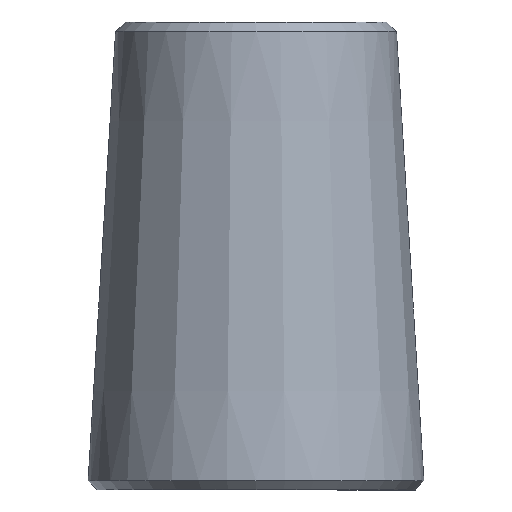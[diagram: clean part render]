
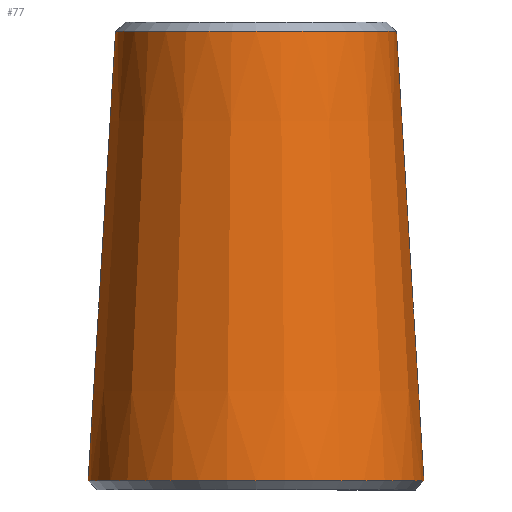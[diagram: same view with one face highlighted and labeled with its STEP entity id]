
A CAD part, left-side view. The second image highlights one B-rep face of the part: STEP entity #77.
In plain terms, the highlighted conical face has half-angle 3.5 degrees and reference radius 8.236 mm.
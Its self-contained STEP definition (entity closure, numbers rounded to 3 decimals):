
#20=FACE_BOUND('',#34,.T.);
#25=FACE_OUTER_BOUND('',#33,.T.);
#33=EDGE_LOOP('',(#63));
#34=EDGE_LOOP('',(#64));
#44=CIRCLE('',#87,8.969);
#45=CIRCLE('',#89,7.501);
#50=VERTEX_POINT('',#130);
#51=VERTEX_POINT('',#133);
#56=EDGE_CURVE('',#50,#50,#44,.T.);
#57=EDGE_CURVE('',#51,#51,#45,.T.);
#63=ORIENTED_EDGE('',*,*,#57,.F.);
#64=ORIENTED_EDGE('',*,*,#56,.F.);
#74=CONICAL_SURFACE('',#88,8.235,3.5);
#77=ADVANCED_FACE('',(#25,#20),#74,.T.);
#87=AXIS2_PLACEMENT_3D('',#131,#104,#105);
#88=AXIS2_PLACEMENT_3D('',#132,#106,#107);
#89=AXIS2_PLACEMENT_3D('',#134,#108,#109);
#104=DIRECTION('center_axis',(0.,0.,
-1.));
#105=DIRECTION('ref_axis',(0.,1.,0.));
#106=DIRECTION('center_axis',(0.,0.,-1.));
#107=DIRECTION('ref_axis',(0.,-1.,0.));
#108=DIRECTION('center_axis',(0.,0.,1.));
#109=DIRECTION('ref_axis',(0.,1.,0.));
#130=CARTESIAN_POINT('',(0.,-8.969,0.499));
#131=CARTESIAN_POINT('Origin',(0.,0.,0.499));
#132=CARTESIAN_POINT('Origin',(0.,0.,12.5));
#133=CARTESIAN_POINT('',(0.,-7.501,24.501));
#134=CARTESIAN_POINT('Origin',(0.,0.,
24.501));
